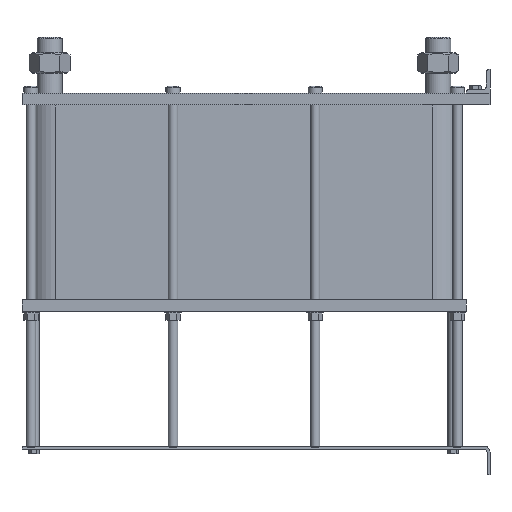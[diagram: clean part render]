
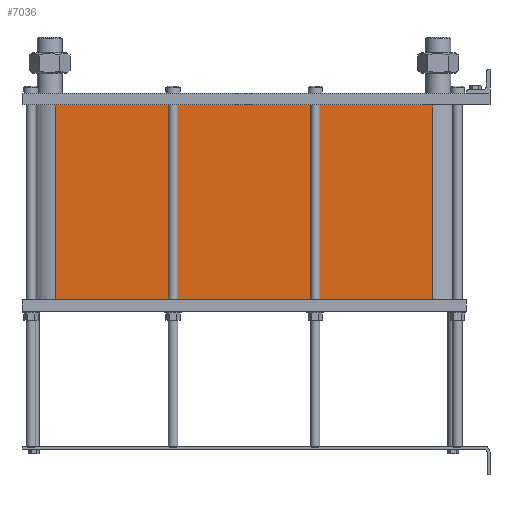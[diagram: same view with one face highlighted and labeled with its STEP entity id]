
A CAD part, left-side view. The second image highlights one B-rep face of the part: STEP entity #7036.
In plain terms, the highlighted planar face has unit normal (-1, 0, 0).
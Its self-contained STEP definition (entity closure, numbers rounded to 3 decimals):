
#999=LINE('',#15640,#1553);
#1031=LINE('',#15723,#1585);
#1032=LINE('',#15726,#1586);
#1033=LINE('',#15727,#1587);
#1553=VECTOR('',#9658,10.);
#1585=VECTOR('',#9736,10.);
#1586=VECTOR('',#9741,10.);
#1587=VECTOR('',#9742,10.);
#2117=FACE_OUTER_BOUND('',#2671,.T.);
#2671=EDGE_LOOP('',(#6246,#6247,#6248,#6249));
#3527=VERTEX_POINT('',#15634);
#3529=VERTEX_POINT('',#15638);
#3556=VERTEX_POINT('',#15720);
#3557=VERTEX_POINT('',#15722);
#4425=EDGE_CURVE('',#3529,#3527,#999,.T.);
#4466=EDGE_CURVE('',#3557,#3556,#1031,.T.);
#4468=EDGE_CURVE('',#3527,#3556,#1032,.T.);
#4469=EDGE_CURVE('',#3557,#3529,#1033,.T.);
#6246=ORIENTED_EDGE('',*,*,#4468,.F.);
#6247=ORIENTED_EDGE('',*,*,#4425,.F.);
#6248=ORIENTED_EDGE('',*,*,#4469,.F.);
#6249=ORIENTED_EDGE('',*,*,#4466,.T.);
#6608=PLANE('',#7812);
#7036=ADVANCED_FACE('',(#2117),#6608,.T.);
#7812=AXIS2_PLACEMENT_3D('',#15725,#9739,#9740);
#9658=DIRECTION('',(0.,0.,-1.));
#9736=DIRECTION('',(0.,0.,-1.));
#9739=DIRECTION('center_axis',(-1.,0.,0.));
#9740=DIRECTION('ref_axis',(0.,1.,0.));
#9741=DIRECTION('',(0.,1.,0.));
#9742=DIRECTION('',(0.,-1.,0.));
#15634=CARTESIAN_POINT('',(-72.,97.5,-328.6));
#15638=CARTESIAN_POINT('',(-72.,97.5,0.));
#15640=CARTESIAN_POINT('',(-72.,97.5,0.));
#15720=CARTESIAN_POINT('',(-72.,733.5,-328.6));
#15722=CARTESIAN_POINT('',(-72.,733.5,0.));
#15723=CARTESIAN_POINT('',(-72.,733.5,0.));
#15725=CARTESIAN_POINT('Origin',(-72.,97.5,0.));
#15726=CARTESIAN_POINT('',(-72.,256.5,-328.6));
#15727=CARTESIAN_POINT('',(-72.,733.5,0.));
